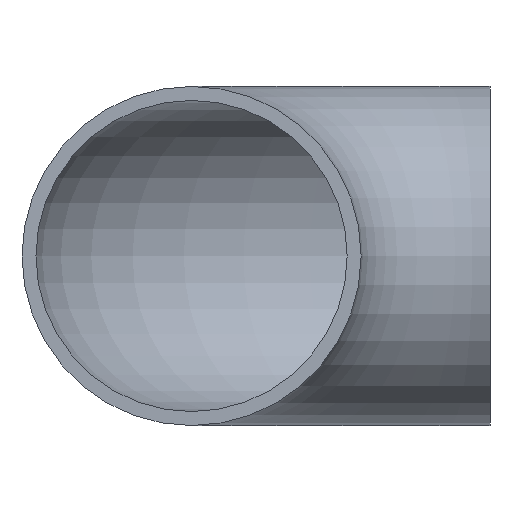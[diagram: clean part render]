
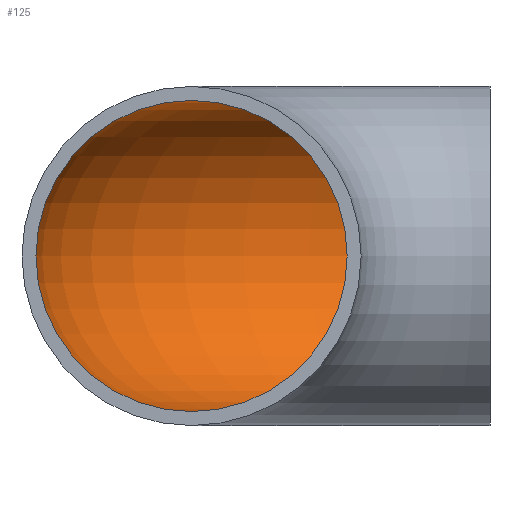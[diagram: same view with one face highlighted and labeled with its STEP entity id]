
A CAD part, front view. The second image highlights one B-rep face of the part: STEP entity #125.
In plain terms, the highlighted toroidal (fillet/blend) face has major radius 110 mm and minor radius 57.35 mm.
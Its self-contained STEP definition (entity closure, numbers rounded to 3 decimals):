
#14=TOROIDAL_SURFACE($,#139,110.,57.35);
#20=FACE_BOUND($,#44,.T.);
#34=FACE_OUTER_BOUND($,#43,.T.);
#43=EDGE_LOOP($,(#92));
#44=EDGE_LOOP($,(#93));
#61=CIRCLE($,#140,57.35);
#62=CIRCLE($,#141,57.35);
#71=VERTEX_POINT($,#248);
#72=VERTEX_POINT($,#250);
#81=EDGE_CURVE($,#71,#71,#61,.T.);
#82=EDGE_CURVE($,#72,#72,#62,.T.);
#92=ORIENTED_EDGE($,*,*,#81,.F.);
#93=ORIENTED_EDGE($,*,*,#82,.T.);
#125=ADVANCED_FACE($,(#34,#20),#14,.F.);
#139=AXIS2_PLACEMENT_3D($,#247,#163,#164);
#140=AXIS2_PLACEMENT_3D($,#249,#165,#166);
#141=AXIS2_PLACEMENT_3D($,#251,#167,#168);
#163=DIRECTION('center_axis',(0.,0.,-1.));
#164=DIRECTION('ref_axis',(-1.,0.,0.));
#165=DIRECTION('center_axis',(-1.,0.,0.));
#166=DIRECTION('ref_axis',(0.,1.,0.));
#167=DIRECTION('center_axis',(0.,-1.,0.));
#168=DIRECTION('ref_axis',(1.,0.,0.));
#247=CARTESIAN_POINT('Origin',(110.,90.,0.));
#248=CARTESIAN_POINT('',(110.,257.35,0.));
#249=CARTESIAN_POINT('Origin',(110.,200.,0.));
#250=CARTESIAN_POINT('',(-57.35,90.,0.));
#251=CARTESIAN_POINT('Origin',(0.,90.,0.));
